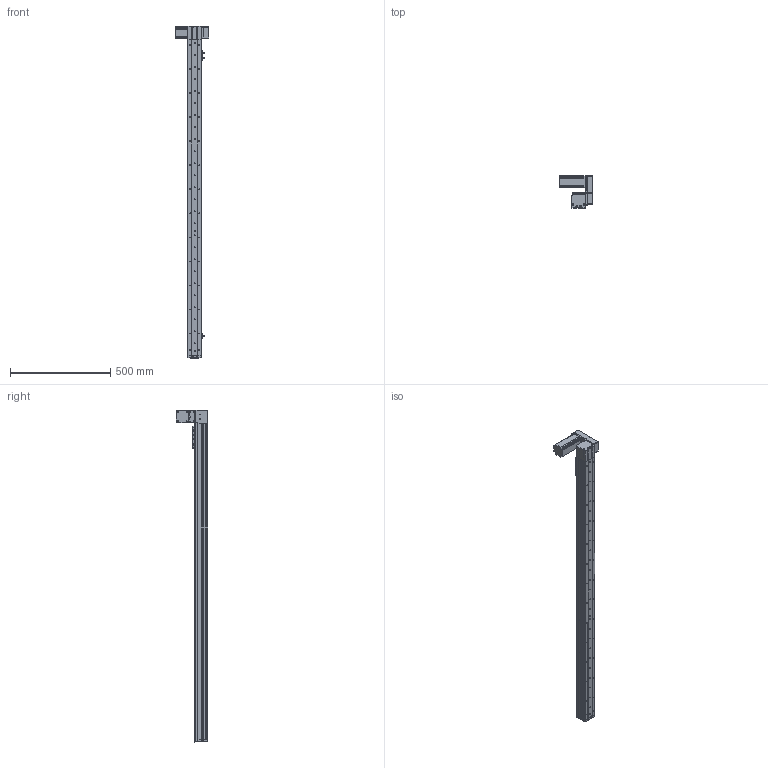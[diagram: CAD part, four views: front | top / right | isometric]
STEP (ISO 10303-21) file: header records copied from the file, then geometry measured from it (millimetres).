
FILE_DESCRIPTION (( 'STEP AP214' ), '1' );
FILE_NAME ('KSD68BS-S1400-MLU-CR.STEP', '2019-08-27T08:39:22', ( '微软用户' ), ( '微软中国' ), 'SwSTEP 2.0', 'SolidWorks 2014', '' );
FILE_SCHEMA (( 'AUTOMOTIVE_DESIGN' ));
Length unit declared in the file: millimetre
Products named in the file (14): 台达ECMA－C20604AS伺服电机（400W); KSD68BS 1400行程底板全封闭; KSD68BS-S1400-MLU-CR; KSD68BS 1400行程盖板全封闭; 68宽单导轨全封闭丝杆传动安装板1防护罩; 68遵裔啣揤啣1; KSD68BS 1400行程侧板全封闭; 68宽单导轨全封闭同步带端板; 68单导轨全封闭同步带电机座左; 68单导轨全封闭同步带安装板; 悵誘欶奻狟殏; 68宽马达安装板连板上折同步带; 感应片68宽全封闭; U倰嫖萇EEㄜSX672
Assembly tree (17 placements, depth 2):
  KSD68BS-S1400-MLU-CR
    KSD68BS 1400行程底板全封闭
    台达ECMA－C20604AS伺服电机（400W)
    U倰嫖萇EEㄜSX672  x3
    感应片68宽全封闭
    68宽马达安装板连板上折同步带
    悵誘欶奻狟殏
    68单导轨全封闭同步带安装板
    68单导轨全封闭同步带电机座左
    68宽单导轨全封闭同步带端板
    KSD68BS 1400行程侧板全封闭  x2
    68宽单导轨全封闭丝杆传动安装板1防护罩
    68遵裔啣揤啣1  x2
    KSD68BS 1400行程盖板全封闭
Bounding box: 167.2 x 159.5 x 1658.1 mm (x, y, z)
Volume: 3074963.3 mm3; surface area: 1226511.9 mm2
Topology: 18 solids, 18 shells, 1587 faces, 4557 edges, 2906 vertices
Faces by surface type: cylinder 774, plane 629, cone 184
Entity records: 51471 total; most frequent: CARTESIAN_POINT 8961, DIRECTION 7664, ORIENTED_EDGE 7334, EDGE_CURVE 3667, AXIS2_PLACEMENT_3D 2789, VERTEX_POINT 2404, VECTOR 2086, LINE 2086
